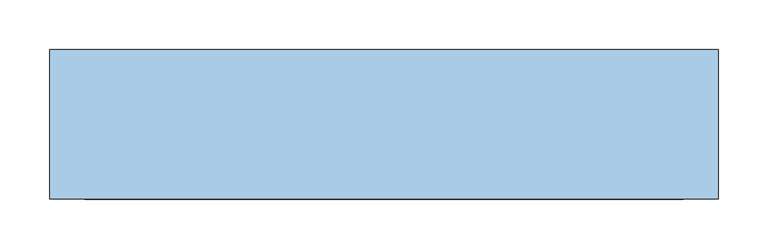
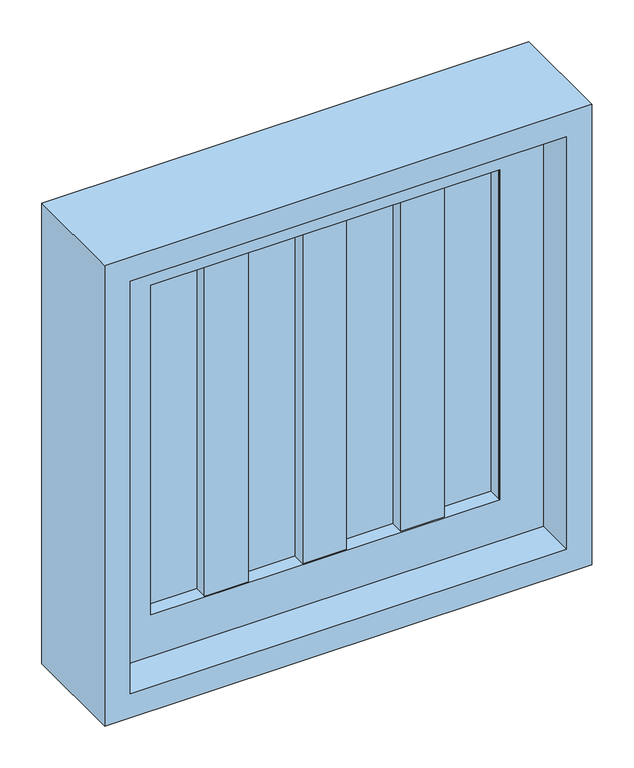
"""IFC4 building model written with IfcOpenShell, lengths in millimetres: window geometry, Janela maxim-ar - PARAMÉTRICA : .4 PAINÉIS - 0.60X0.60 3."""

import ifcopenshell
import ifcopenshell.guid

model = None  # the IFC model being written
_history = None  # IfcOwnerHistory: only IFC2X3 demands one
_inside = {}  # id of a spatial element -> (the spatial element, [elements in it])
_under = {}  # id of a project, library or spatial element -> (it, [spatial elements below it])
_declared = {}  # id of a project -> (the project, [libraries it declares])
_typed = {}  # id of a type object -> (the type object, [elements of that type])
_made_of = {}  # id of a material, layer set ... -> (it, [elements and type objects made of it])


def new_model(schema):
    """Start an empty IFC model of exactly this schema.

    Asked for "IFC4X3", IfcOpenShell would pick the latest addendum, in which some entities
    have other attributes; the version numbers below select the first issue.
    IFC2X3 requires an IfcOwnerHistory on every rooted entity: one is made here for all.
    """
    global model, _history
    if schema == "IFC4X3":
        model = ifcopenshell.file(schema_version=(4, 3, 0, 0))
    else:
        model = ifcopenshell.file(schema=schema)
    _inside.clear()
    _under.clear()
    _declared.clear()
    _typed.clear()
    _made_of.clear()
    _history = None
    if model.schema == "IFC2X3":
        org = make("IfcOrganization", Name="unknown")
        user = make(
            "IfcPersonAndOrganization",
            ThePerson=make("IfcPerson", FamilyName="unknown"),
            TheOrganization=org,
        )
        app = make(
            "IfcApplication",
            ApplicationDeveloper=org,
            Version="unknown",
            ApplicationFullName="unknown",
            ApplicationIdentifier="unknown",
        )
        _history = make(
            "IfcOwnerHistory",
            OwningUser=user,
            OwningApplication=app,
            ChangeAction="ADDED",
            CreationDate=0,
        )
    return model


def make(cls, **values):
    """One entity of the class cls with the attributes given. An attribute that is None is left unset."""
    return model.create_entity(
        cls, **{name: value for name, value in values.items() if value is not None}
    )


def rooted(cls, **values):
    """An entity with a GlobalId (a new one), such as an element, a storey or a relation."""
    return make(cls, GlobalId=ifcopenshell.guid.new(), OwnerHistory=_history, **values)


def si_unit(unit_type, name, prefix=None):
    """IfcSIUnit, for example si_unit("LENGTHUNIT", "METRE", prefix="MILLI")."""
    return make("IfcSIUnit", UnitType=unit_type, Prefix=prefix, Name=name)


def assignment(units):
    """IfcUnitAssignment: the units of a project."""
    return None if units is None else make("IfcUnitAssignment", Units=units)


def point(xyz):
    """IfcCartesianPoint."""
    return None if xyz is None else make("IfcCartesianPoint", Coordinates=xyz)


def direction(xyz):
    """IfcDirection."""
    return None if xyz is None else make("IfcDirection", DirectionRatios=xyz)


def frame(location, z_axis=None, x_axis=None):
    """IfcAxis2Placement3D, a coordinate frame: its origin and axes. An axis left out is left unset."""
    return make(
        "IfcAxis2Placement3D",
        Location=point(location),
        Axis=direction(z_axis),
        RefDirection=direction(x_axis),
    )


def origin():
    """The frame at (0, 0, 0) with its axes left unset."""
    return frame((0.0, 0.0, 0.0))


def place(relative_to, where):
    """IfcLocalPlacement: puts the frame where relative to a parent placement (None: the world)."""
    return make(
        "IfcLocalPlacement", PlacementRelTo=relative_to, RelativePlacement=where
    )


def context(
    kind, dimensions, precision=None, world=None, true_north=None, identifier=None
):
    """IfcGeometricRepresentationContext, for example the 3D "Model" context."""
    return make(
        "IfcGeometricRepresentationContext",
        ContextIdentifier=identifier,
        ContextType=kind,
        CoordinateSpaceDimension=dimensions,
        Precision=precision,
        WorldCoordinateSystem=world,
        TrueNorth=true_north,
    )


def project(units=None, contexts=None):
    """IfcProject with its units and contexts."""
    return rooted(
        "IfcProject",
        Name="project",
        RepresentationContexts=contexts,
        UnitsInContext=assignment(units),
    )


def spatial(cls, under=None, at=None, **own):
    """A site, building, storey or space (cls), placed at a placement, below another one or the project."""
    s = rooted(cls, ObjectPlacement=at, **own)
    if under is not None:
        _under.setdefault(under.id(), (under, []))[1].append(s)
    return s


def polyline(points):
    """IfcPolyline through the points."""
    return make("IfcPolyline", Points=[point(p) for p in points])


def outline(outer, holes=None, kind="AREA"):
    """IfcArbitraryClosedProfileDef: a profile drawn as a closed curve; with holes, ...WithVoids."""
    if holes is None:
        return make("IfcArbitraryClosedProfileDef", ProfileType=kind, OuterCurve=outer)
    return make(
        "IfcArbitraryProfileDefWithVoids",
        ProfileType=kind,
        OuterCurve=outer,
        InnerCurves=holes,
    )


def extrude(swept, where, along, depth):
    """IfcExtrudedAreaSolid: the profile swept, set in the frame where, extruded along a direction by depth."""
    return make(
        "IfcExtrudedAreaSolid",
        SweptArea=swept,
        Position=where,
        ExtrudedDirection=direction(along),
        Depth=depth,
    )


def shape(context_of_items, identifier, shape_type, items):
    """IfcShapeRepresentation: the items that make up one representation, for example the "Body"."""
    return make(
        "IfcShapeRepresentation",
        ContextOfItems=context_of_items,
        RepresentationIdentifier=identifier,
        RepresentationType=shape_type,
        Items=items,
    )


def source(mapping_origin, context_of_items, identifier, shape_type, items):
    """IfcRepresentationMap: a shape defined once, which mapped items show again and again."""
    return make(
        "IfcRepresentationMap",
        MappingOrigin=mapping_origin,
        MappedRepresentation=shape(context_of_items, identifier, shape_type, items),
    )


def transform(
    local_origin,
    x_axis=None,
    y_axis=None,
    z_axis=None,
    scale=None,
    scale2=None,
    scale3=None,
    uniform=True,
):
    """IfcCartesianTransformationOperator3D, or its non-uniform kind. x_axis, y_axis, z_axis: its Axis1, 2, 3."""
    if uniform:
        return make(
            "IfcCartesianTransformationOperator3D",
            Axis1=direction(x_axis),
            Axis2=direction(y_axis),
            LocalOrigin=point(local_origin),
            Scale=scale,
            Axis3=direction(z_axis),
        )
    return make(
        "IfcCartesianTransformationOperator3DnonUniform",
        Axis1=direction(x_axis),
        Axis2=direction(y_axis),
        LocalOrigin=point(local_origin),
        Scale=scale,
        Axis3=direction(z_axis),
        Scale2=scale2,
        Scale3=scale3,
    )


def mapped(mapping_source, mapping_target):
    """IfcMappedItem: shows the shape of a source again, moved by a transform."""
    return make(
        "IfcMappedItem", MappingSource=mapping_source, MappingTarget=mapping_target
    )


def made_of(thing, what):
    """Note that an element or type object is made of a material, layer set ...; save() writes the relation."""
    if what is not None:
        _made_of.setdefault(what.id(), (what, []))[1].append(thing)
    return thing


def element(
    cls,
    number,
    at=None,
    inside=None,
    cuts=None,
    type_object=None,
    material=None,
    context=None,
    identifier="Body",
    shape_type=None,
    held_by="IfcProductDefinitionShape",
    body=None,
    shapes=None,
    **own,
):
    """One element of the class cls, such as IfcWall. Its Tag is "e" and its number.

    at: its placement. inside: the storey or other place that contains it. cuts: it is an
    opening in that element (IfcRelVoidsElement). A single representation is given by context,
    identifier, shape_type and body (its items); several are given by shapes. held_by: the class
    of the entity that holds the representations. save() writes the other relations.
    """
    e = rooted(cls, Tag="e%d" % number, ObjectPlacement=at, **own)
    if body is not None:
        shapes = [shape(context, identifier, shape_type, body)]
    if shapes is not None:
        e.Representation = make(held_by, Representations=shapes)
    if inside is not None:
        _inside.setdefault(inside.id(), (inside, []))[1].append(e)
    if cuts is not None:
        rooted(
            "IfcRelVoidsElement", RelatingBuildingElement=cuts, RelatedOpeningElement=e
        )
    if type_object is not None:
        _typed.setdefault(type_object.id(), (type_object, []))[1].append(e)
    return made_of(e, material)


def aggregate(whole, parts):
    """IfcRelAggregates: a whole, such as a stair, and the parts it consists of."""
    return rooted("IfcRelAggregates", RelatingObject=whole, RelatedObjects=parts)


def save(model, path):
    """Write the relations noted so far, then the file.

    IfcRelAggregates (storeys below a building ...), IfcRelContainedInSpatialStructure (elements
    in a storey), IfcRelDefinesByType, IfcRelAssociatesMaterial and IfcRelDeclares: one each for
    every whole, place, type object, material and project.
    """
    for whole, parts in _under.values():
        aggregate(whole, parts)
    for where, things in _inside.values():
        rooted(
            "IfcRelContainedInSpatialStructure",
            RelatedElements=things,
            RelatingStructure=where,
        )
    for kind, things in _typed.values():
        rooted("IfcRelDefinesByType", RelatedObjects=things, RelatingType=kind)
    for what, things in _made_of.values():
        rooted("IfcRelAssociatesMaterial", RelatedObjects=things, RelatingMaterial=what)
    for by, libraries in _declared.values():
        rooted("IfcRelDeclares", RelatingContext=by, RelatedDefinitions=libraries)
    model.write(path)


def window_b42098c8(model_context):
    return source(origin(), model_context, "Body", "SweptSolid", [
        extrude(outline(polyline([(165.0, 18.0), (165.0, -18.0414253), (105.0, -18.0414253), (105.0, 18.0), (165.0, 18.0)])), frame((0.0, 0.0, 835.0), z_axis=(0.0, 0.0, 1.0), x_axis=(1.0, 0.0, 0.0)), (0.0, 0.0, 1.0), 600.0),
        extrude(outline(polyline([(30.0, 18.0), (30.0, -18.0414253), (-30.0, -18.0414253), (-30.0, 18.0), (30.0, 18.0)])), frame((0.0, 0.0, 835.0), z_axis=(0.0, 0.0, 1.0), x_axis=(1.0, 0.0, 0.0)), (0.0, 0.0, 1.0), 600.0),
        extrude(outline(polyline([(-105.0, 18.0), (-105.0, -18.0414253), (-165.0, -18.0414253), (-165.0, 18.0), (-105.0, 18.0)])), frame((0.0, 0.0, 835.0), z_axis=(0.0, 0.0, 1.0), x_axis=(1.0, 0.0, 0.0)), (0.0, 0.0, 1.0), 600.0),
        extrude(outline(polyline([(300.0, 18.0), (300.0, -18.0414253), (240.0, -18.0414253), (240.0, 18.0), (300.0, 18.0)])), frame((0.0, 0.0, 835.0), z_axis=(0.0, 0.0, 1.0), x_axis=(1.0, 0.0, 0.0)), (0.0, 0.0, 1.0), 600.0),
        extrude(outline(polyline([(-240.0, 18.0), (-240.0, -18.0414253), (-300.0, -18.0414253), (-300.0, 18.0), (-240.0, 18.0)])), frame((0.0, 0.0, 835.0), z_axis=(0.0, 0.0, 1.0), x_axis=(1.0, 0.0, 0.0)), (0.0, 0.0, 1.0), 600.0),
        extrude(outline(polyline([(835.0, -300.0), (835.0, 300.0), (1435.0, 300.0), (1435.0, -300.0), (835.0, -300.0)]), holes=[polyline([(1375.0, -240.0), (1375.0, 240.0), (895.0, 240.0), (895.0, -240.0), (1375.0, -240.0)])]), frame((0.0, -20.0, 0.0), z_axis=(0.0, 1.0, 0.0), x_axis=(0.0, 0.0, 1.0)), (0.0, 0.0, 1.0), 40.0),
        extrude(outline(polyline([(800.0, -335.0), (800.0, 335.0), (1470.0, 335.0), (1470.0, -335.0), (800.0, -335.0)]), holes=[polyline([(1435.0, -300.0), (1435.0, 300.0), (835.0, 300.0), (835.0, -300.0), (1435.0, -300.0)])]), frame((0.0, -75.0, 0.0), z_axis=(0.0, 1.0, 0.0), x_axis=(0.0, 0.0, 1.0)), (0.0, 0.0, 1.0), 150.0),
        extrude(outline(polyline([(240.0, 15.0), (240.0, 0.0), (-240.0, 0.0), (-240.0, 15.0), (240.0, 15.0)])), frame((0.0, 0.0, 895.0), z_axis=(0.0, 0.0, 1.0), x_axis=(1.0, 0.0, 0.0)), (0.0, 0.0, 1.0), 480.0),
    ])


if __name__ == "__main__":
    model = new_model("IFC4")
    model_context = context("Model", 3, world=origin())
    ifc_project = project(units=[si_unit("LENGTHUNIT", "METRE", prefix="MILLI")], contexts=[model_context])
    site = spatial("IfcSite", under=ifc_project)
    building = spatial("IfcBuilding", under=site)
    placement = place(None, origin())
    window_shape = window_b42098c8(model_context)
    element("IfcWindow", 1, ObjectType="Janela maxim-ar - PARAMÉTRICA : .4 PAINÉIS - 0.60X0.60 3", at=placement, inside=building, context=model_context, shape_type="MappedRepresentation", body=[
        mapped(window_shape, transform((0.0, 0.0, 0.0), x_axis=(1.0, 0.0, 0.0), y_axis=(0.0, 1.0, 0.0), z_axis=(0.0, 0.0, 1.0))),
    ])
    save(model, "model.ifc")
